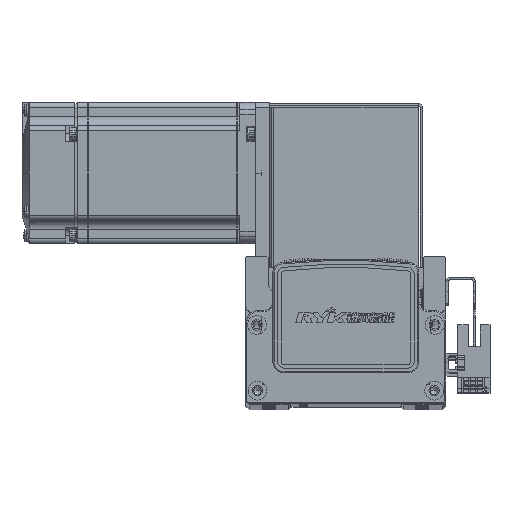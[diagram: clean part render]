
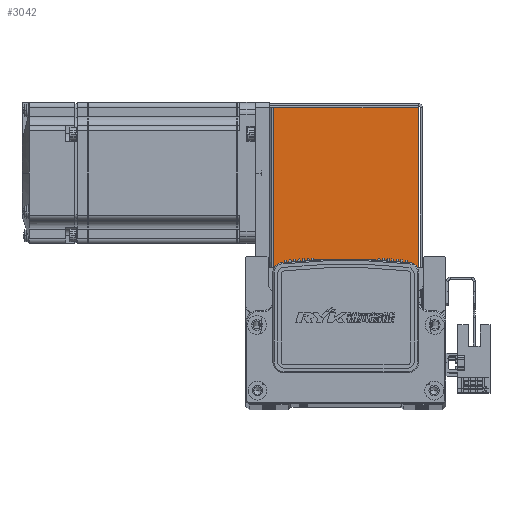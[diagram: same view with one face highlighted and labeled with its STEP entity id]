
A CAD part, top view. The second image highlights one B-rep face of the part: STEP entity #3042.
In plain terms, the highlighted planar face has unit normal (0, 0, 1).
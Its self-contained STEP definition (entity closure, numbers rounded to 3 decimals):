
#3042 = ADVANCED_FACE ( 'NONE', ( #14914 ), #4568, .F. ) ;
#4113 = CARTESIAN_POINT ( 'NONE',  ( -30.793, 0.737, 35. ) ) ;
#4115 = CARTESIAN_POINT ( 'NONE',  ( 30.763, 0.737, 35. ) ) ;
#4151 = CARTESIAN_POINT ( 'NONE',  ( 30.763, 68.5, 35. ) ) ;
#4163 = CARTESIAN_POINT ( 'NONE',  ( -30.793, 68.5, 35. ) ) ;
#4562 = CARTESIAN_POINT ( 'NONE',  ( 0., 0., 35. ) ) ;
#4563 = DIRECTION ( 'NONE',  ( 0., 0., -1. ) ) ;
#4568 = PLANE ( 'NONE',  #61131 ) ;
#4596 = DIRECTION ( 'NONE',  ( -1., 0., 0. ) ) ;
#5600 = DIRECTION ( 'NONE',  ( -1., 0., 0. ) ) ;
#5616 = CARTESIAN_POINT ( 'NONE',  ( -30.793, 0., 35. ) ) ;
#5617 = CARTESIAN_POINT ( 'NONE',  ( 0., 68.5, 35. ) ) ;
#5622 = DIRECTION ( 'NONE',  ( 0., 1., 0. ) ) ;
#5636 = DIRECTION ( 'NONE',  ( -1., 0., 0. ) ) ;
#5642 = CARTESIAN_POINT ( 'NONE',  ( -32.5, 0.737, 35. ) ) ;
#5693 = CARTESIAN_POINT ( 'NONE',  ( 30.763, 0.737, 35. ) ) ;
#5708 = DIRECTION ( 'NONE',  ( 0., 1., 0. ) ) ;
#12531 = EDGE_CURVE ( 'NONE', #81529, #81544, #16581, .T. ) ;
#12540 = EDGE_CURVE ( 'NONE', #81507, #81544, #16583, .T. ) ;
#12543 = EDGE_CURVE ( 'NONE', #81521, #81507, #16577, .T. ) ;
#12576 = EDGE_CURVE ( 'NONE', #81521, #81529, #16589, .T. ) ;
#14914 = FACE_OUTER_BOUND ( 'NONE', #81712, .T. ) ;
#16531 = VECTOR ( 'NONE', #5622, 1000. ) ;
#16561 = VECTOR ( 'NONE', #5600, 1000. ) ;
#16568 = VECTOR ( 'NONE', #5636, 1000. ) ;
#16577 = LINE ( 'NONE', #5642, #16561 ) ;
#16581 = LINE ( 'NONE', #5617, #16568 ) ;
#16583 = LINE ( 'NONE', #5616, #16531 ) ;
#16589 = LINE ( 'NONE', #5693, #16595 ) ;
#16595 = VECTOR ( 'NONE', #5708, 1000. ) ;
#37575 = ORIENTED_EDGE ( 'NONE', *, *, #12543, .F. ) ;
#37576 = ORIENTED_EDGE ( 'NONE', *, *, #12531, .T. ) ;
#37599 = ORIENTED_EDGE ( 'NONE', *, *, #12576, .T. ) ;
#37601 = ORIENTED_EDGE ( 'NONE', *, *, #12540, .F. ) ;
#61131 = AXIS2_PLACEMENT_3D ( 'NONE', #4562, #4563, #4596 ) ;
#81507 = VERTEX_POINT ( 'NONE', #4113 ) ;
#81521 = VERTEX_POINT ( 'NONE', #4115 ) ;
#81529 = VERTEX_POINT ( 'NONE', #4151 ) ;
#81544 = VERTEX_POINT ( 'NONE', #4163 ) ;
#81712 = EDGE_LOOP ( 'NONE', ( #37599, #37576, #37601, #37575 ) ) ;
